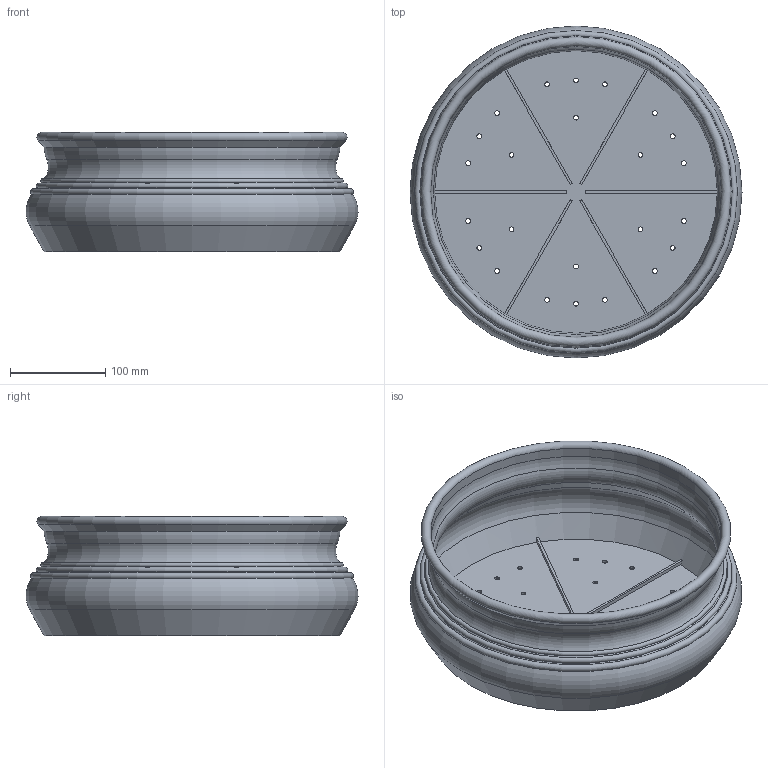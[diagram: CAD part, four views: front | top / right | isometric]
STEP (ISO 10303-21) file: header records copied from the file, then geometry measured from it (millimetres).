
FILE_DESCRIPTION(/* description */ (''),/* implementation_level */ '2;1');
FILE_NAME(/* name */ 'LR2406-S25-H125-D350_step.step',/* time_stamp */ '2024-02-01T10:59:30+01:00',/* author */ (''),/* organization */ (''),/* preprocessor_version */ 'ST-DEVELOPER v20',/* originating_system */ 'Autodesk Translation Framework v12.20.1.177',/* authorisation */ '');
FILE_SCHEMA (('AUTOMOTIVE_DESIGN { 1 0 10303 214 3 1 1 }'));
Length unit declared in the file: millimetre
Products named in the file (1): LR2406-S25-H125-D350
Bounding box: 347.99 x 347.99 x 125 mm (x, y, z)
Volume: 607686.5 mm3; surface area: 446930.5 mm2
Topology: 1 solids, 1 shells, 68 faces, 181 edges, 115 vertices
Faces by surface type: cylinder 31, plane 20, torus 10, cone 7
Full cylindrical faces by diameter (mm): 5 x24, 305 x1
Entity records: 2286 total; most frequent: DIRECTION 420, CARTESIAN_POINT 365, ORIENTED_EDGE 362, EDGE_CURVE 181, AXIS2_PLACEMENT_3D 170, EDGE_LOOP 116, VERTEX_POINT 115, CIRCLE 101
